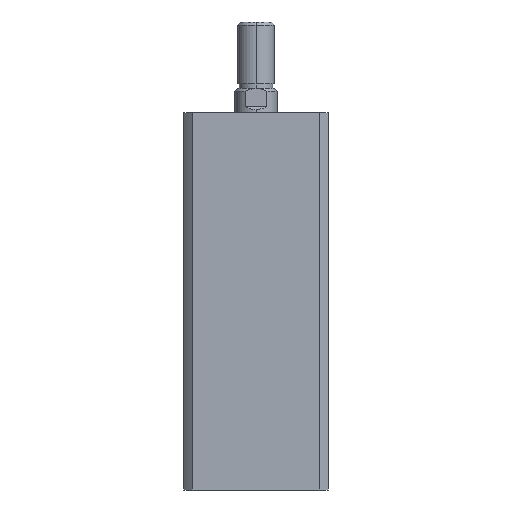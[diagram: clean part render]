
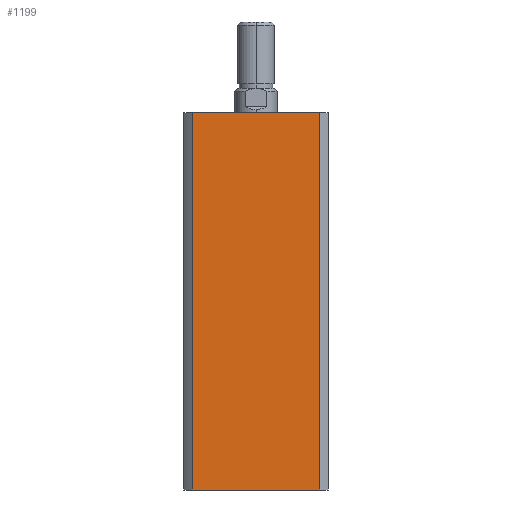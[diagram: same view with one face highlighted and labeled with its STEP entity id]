
A CAD part, left-side view. The second image highlights one B-rep face of the part: STEP entity #1199.
In plain terms, the highlighted planar face has unit normal (-1, 0, 0).
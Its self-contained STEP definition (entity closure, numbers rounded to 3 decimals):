
#126 = DIRECTION ( 'NONE',  ( 0., 0., -1. ) ) ;
#130 = DIRECTION ( 'NONE',  ( 1., 0., 0. ) ) ;
#135 = CARTESIAN_POINT ( 'NONE',  ( -24., 0., 125. ) ) ;
#140 = PLANE ( 'NONE',  #2897 ) ;
#155 = EDGE_CURVE ( 'NONE', #2691, #1002, #372, .T. ) ;
#372 = LINE ( 'NONE', #1382, #376 ) ;
#376 = VECTOR ( 'NONE', #1387, 1000. ) ;
#421 = FACE_OUTER_BOUND ( 'NONE', #2516, .T. ) ;
#596 = LINE ( 'NONE', #2212, #601 ) ;
#597 = LINE ( 'NONE', #2200, #599 ) ;
#598 = LINE ( 'NONE', #2211, #603 ) ;
#599 = VECTOR ( 'NONE', #2207, 1000. ) ;
#601 = VECTOR ( 'NONE', #2217, 1000. ) ;
#603 = VECTOR ( 'NONE', #2219, 1000. ) ;
#872 = VERTEX_POINT ( 'NONE', #3862 ) ;
#922 = VERTEX_POINT ( 'NONE', #3824 ) ;
#1002 = VERTEX_POINT ( 'NONE', #3754 ) ;
#1199 = ADVANCED_FACE ( 'NONE', ( #421 ), #140, .F. ) ;
#1382 = CARTESIAN_POINT ( 'NONE',  ( -24., 0., 125. ) ) ;
#1387 = DIRECTION ( 'NONE',  ( 0., -1., 0. ) ) ;
#1423 = EDGE_CURVE ( 'NONE', #922, #872, #597, .T. ) ;
#1424 = EDGE_CURVE ( 'NONE', #1002, #872, #596, .T. ) ;
#1425 = EDGE_CURVE ( 'NONE', #2691, #922, #598, .T. ) ;
#2200 = CARTESIAN_POINT ( 'NONE',  ( -24., 0., 0. ) ) ;
#2207 = DIRECTION ( 'NONE',  ( 0., -1., 0. ) ) ;
#2211 = CARTESIAN_POINT ( 'NONE',  ( -24., 21.166, 125. ) ) ;
#2212 = CARTESIAN_POINT ( 'NONE',  ( -24., -21.166, 125. ) ) ;
#2217 = DIRECTION ( 'NONE',  ( 0., 0., -1. ) ) ;
#2219 = DIRECTION ( 'NONE',  ( 0., 0., -1. ) ) ;
#2349 = CARTESIAN_POINT ( 'NONE',  ( -24., 21.166, 125. ) ) ;
#2450 = ORIENTED_EDGE ( 'NONE', *, *, #1423, .T. ) ;
#2451 = ORIENTED_EDGE ( 'NONE', *, *, #1424, .F. ) ;
#2452 = ORIENTED_EDGE ( 'NONE', *, *, #155, .F. ) ;
#2516 = EDGE_LOOP ( 'NONE', ( #2450, #2451, #2452, #5151 ) ) ;
#2691 = VERTEX_POINT ( 'NONE', #2349 ) ;
#2897 = AXIS2_PLACEMENT_3D ( 'NONE', #135, #130, #126 ) ;
#3754 = CARTESIAN_POINT ( 'NONE',  ( -24., -21.166, 125. ) ) ;
#3824 = CARTESIAN_POINT ( 'NONE',  ( -24., 21.166, 0. ) ) ;
#3862 = CARTESIAN_POINT ( 'NONE',  ( -24., -21.166, 0. ) ) ;
#5151 = ORIENTED_EDGE ( 'NONE', *, *, #1425, .T. ) ;
